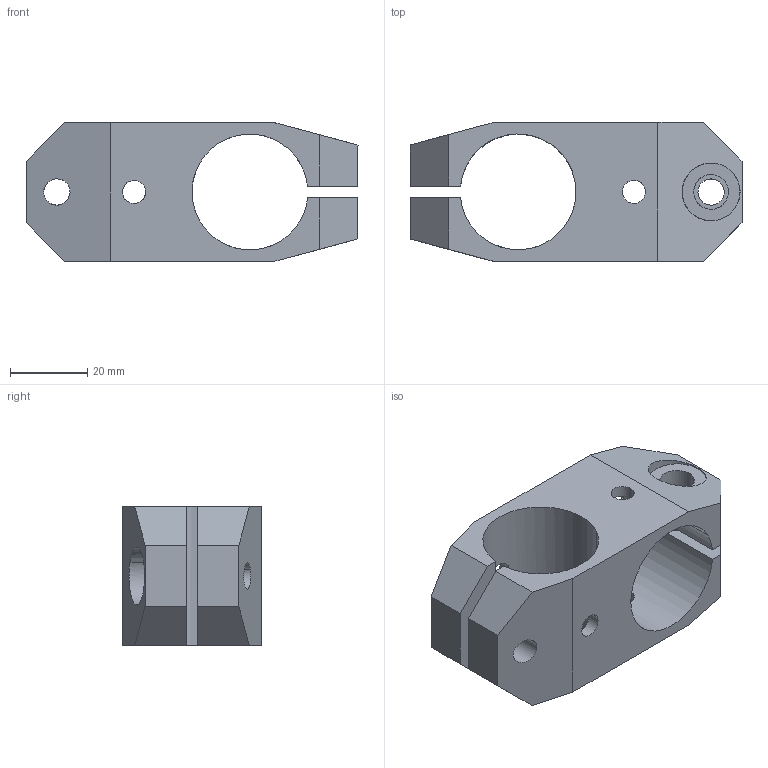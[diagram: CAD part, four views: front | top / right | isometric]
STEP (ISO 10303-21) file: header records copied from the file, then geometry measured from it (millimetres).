
FILE_DESCRIPTION(('CATIA V5 STEP Exchange'),'2;1');
FILE_NAME('\\192.168.2.253\vorns\技术部\03-技术资料\03-产品数模\02、抓具\STP\EGT142.stp','2017-09-14T11:39:27+00:00',('none'),('none'),'CATIA Version 5 Release 19 GA (IN-10)','CATIA V5 STEP AP203','none');
FILE_SCHEMA(('CONFIG_CONTROL_DESIGN'));
Length unit declared in the file: millimetre
Products named in the file (1): EGT142_K-VERBINDER_30X30X90.1
Bounding box: 86 x 36 x 36 mm (x, y, z)
Volume: 40552.9 mm3; surface area: 18676.9 mm2
Topology: 1 solids, 1 shells, 52 faces, 144 edges, 96 vertices
Faces by surface type: cylinder 26, plane 26
Entity records: 2104 total; most frequent: CARTESIAN_POINT 805, ORIENTED_EDGE 288, DIRECTION 193, EDGE_CURVE 144, VERTEX_POINT 96, VECTOR 92, LINE 92, EDGE_LOOP 70
